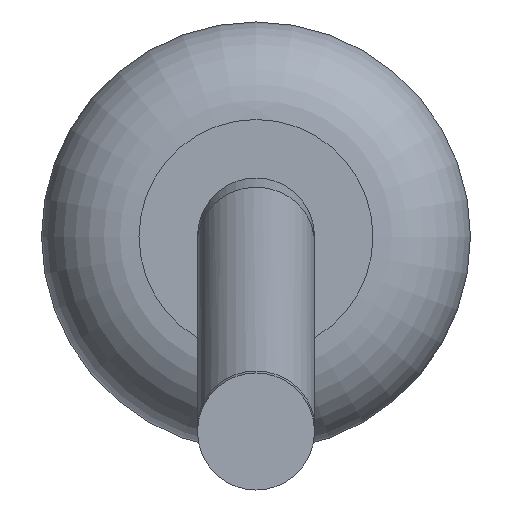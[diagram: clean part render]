
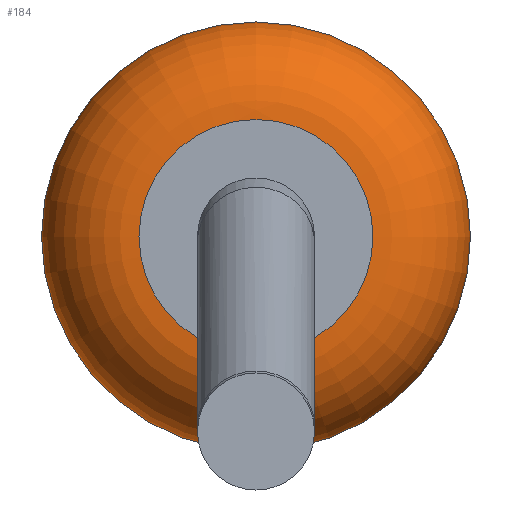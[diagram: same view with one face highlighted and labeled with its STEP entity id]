
A CAD part, left-side view. The second image highlights one B-rep face of the part: STEP entity #184.
In plain terms, the highlighted toroidal (fillet/blend) face has major radius 0.6 mm and minor radius 0.5 mm.
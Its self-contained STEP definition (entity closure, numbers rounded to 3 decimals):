
#184=ADVANCED_FACE('',(#407,#409),#411,.T.);
#407=FACE_OUTER_BOUND('',#408,.T.);
#408=EDGE_LOOP('',(#621));
#409=FACE_OUTER_BOUND('',#410,.T.);
#410=EDGE_LOOP('',(#622));
#411=TOROIDAL_SURFACE('',#412,0.6,0.5);
#412=AXIS2_PLACEMENT_3D('',#413,#414,#415);
#413=CARTESIAN_POINT('',(-2.5,0.,0.));
#414=DIRECTION('',(-1.,0.,0.));
#415=DIRECTION('',(0.,0.,1.));
#621=ORIENTED_EDGE('',*,*,#668,.T.);
#622=ORIENTED_EDGE('',*,*,#669,.F.);
#668=EDGE_CURVE('',#714,#714,#715,.T.);
#669=EDGE_CURVE('',#716,#716,#717,.T.);
#714=VERTEX_POINT('',#818);
#715=CIRCLE('',#819,1.1);
#716=VERTEX_POINT('',#823);
#717=CIRCLE('',#824,0.6);
#818=CARTESIAN_POINT('',(-2.5,0.,1.1));
#819=AXIS2_PLACEMENT_3D('',#820,#821,#822);
#820=CARTESIAN_POINT('',(-2.5,0.,0.));
#821=DIRECTION('',(-1.,0.,0.));
#822=DIRECTION('',(0.,0.,1.));
#823=CARTESIAN_POINT('',(-3.,0.,0.6));
#824=AXIS2_PLACEMENT_3D('',#825,#826,#827);
#825=CARTESIAN_POINT('',(-3.,0.,0.));
#826=DIRECTION('',(-1.,0.,0.));
#827=DIRECTION('',(0.,0.,1.));
